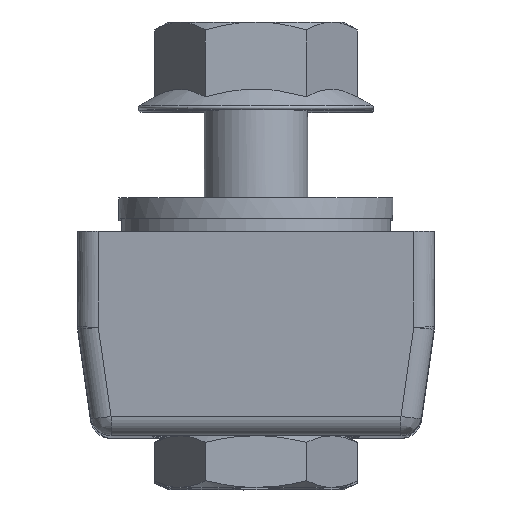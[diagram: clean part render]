
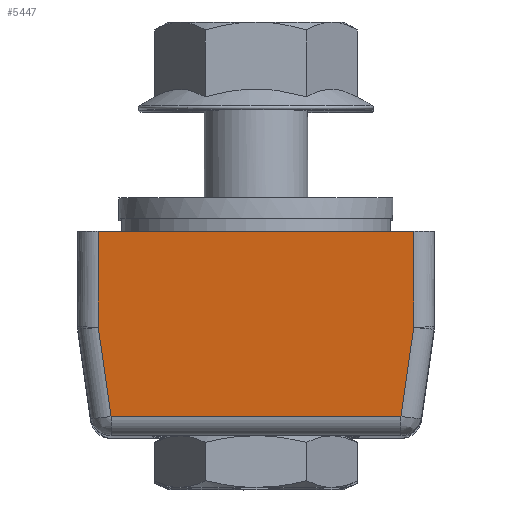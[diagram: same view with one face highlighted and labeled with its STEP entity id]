
A CAD part, top view. The second image highlights one B-rep face of the part: STEP entity #5447.
In plain terms, the highlighted free-form (B-spline) face has degree [1, 1] with [2, 2] control points.
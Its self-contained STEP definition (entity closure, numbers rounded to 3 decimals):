
#5303=CARTESIAN_POINT('V128',(-14.018,
   -17.651,152.64));
#5304=VERTEX_POINT('V128',#5303);
#5318=CARTESIAN_POINT('V123',(-15.25,-9.027,
   153.295));
#5319=VERTEX_POINT('V123',#5318);
#5320=CARTESIAN_POINT('E200',(-14.018,
   -17.651,152.64));
#5321=CARTESIAN_POINT('E200',(-15.25,-9.027,
   153.295));
#5322=B_SPLINE_CURVE_WITH_KNOTS('E200',1,(#5320,#5321),
   .POLYLINE_FORM.,.F.,.U.,(2,2),(2.0,4.8),
   .UNSPECIFIED.);
#5323=EDGE_CURVE('E200',#5304,#5319,#5322,.T.);
#5392=CARTESIAN_POINT('V124',(-15.25,0.25,
   154.0));
#5393=VERTEX_POINT('V124',#5392);
#5394=CARTESIAN_POINT('E195',(-15.25,-9.027,
   153.295));
#5395=CARTESIAN_POINT('E195',(-15.25,0.25,
   154.0));
#5396=B_SPLINE_CURVE_WITH_KNOTS('E195',1,(#5394,#5395),
   .POLYLINE_FORM.,.F.,.U.,(2,2),(2.0,4.961),
   .UNSPECIFIED.);
#5397=EDGE_CURVE('E195',#5319,#5393,#5396,.T.);
#5412=CARTESIAN_POINT('F80',(30.0,5.25,
   154.38));
#5413=CARTESIAN_POINT('F80',(30.0,-24.5,
   152.12));
#5414=CARTESIAN_POINT('F80',(-30.0,5.25,
   154.38));
#5415=CARTESIAN_POINT('F80',(-30.0,-24.5,
   152.12));
#5416=B_SPLINE_SURFACE_WITH_KNOTS('F80',1,1,((#5412,#5414),(#5413,
   #5415)),.PLANE_SURF.,.F.,.F.,.U.,(2,2),(2,2),(0.0,1.0),(0.0,
   2.011),.UNSPECIFIED.);
#5417=ORIENTED_EDGE('E200',*,*,#5323,.F.);
#5418=CARTESIAN_POINT('V127',(14.018,-17.651,
   152.64));
#5419=VERTEX_POINT('V127',#5418);
#5420=CARTESIAN_POINT('E199',(14.018,-17.651,
   152.64));
#5421=CARTESIAN_POINT('E199',(-14.018,
   -17.651,152.64));
#5422=B_SPLINE_CURVE_WITH_KNOTS('E199',1,(#5420,#5421),
   .POLYLINE_FORM.,.F.,.U.,(2,2),(2.0,11.377),
   .UNSPECIFIED.);
#5423=EDGE_CURVE('E199',#5419,#5304,#5422,.T.);
#5424=ORIENTED_EDGE('E199',*,*,#5423,.F.);
#5425=CARTESIAN_POINT('V126',(15.25,-9.027,
   153.295));
#5426=VERTEX_POINT('V126',#5425);
#5427=CARTESIAN_POINT('E198',(15.25,-9.027,
   153.295));
#5428=CARTESIAN_POINT('E198',(14.018,-17.651,
   152.64));
#5429=B_SPLINE_CURVE_WITH_KNOTS('E198',1,(#5427,#5428),
   .POLYLINE_FORM.,.F.,.U.,(2,2),(2.0,4.8),
   .UNSPECIFIED.);
#5430=EDGE_CURVE('E198',#5426,#5419,#5429,.T.);
#5431=ORIENTED_EDGE('E198',*,*,#5430,.F.);
#5432=CARTESIAN_POINT('V125',(15.25,0.25,
   154.0));
#5433=VERTEX_POINT('V125',#5432);
#5434=CARTESIAN_POINT('E197',(15.25,0.25,
   154.0));
#5435=CARTESIAN_POINT('E197',(15.25,-9.027,
   153.295));
#5436=B_SPLINE_CURVE_WITH_KNOTS('E197',1,(#5434,#5435),
   .POLYLINE_FORM.,.F.,.U.,(2,2),(2.0,4.961),
   .UNSPECIFIED.);
#5437=EDGE_CURVE('E197',#5433,#5426,#5436,.T.);
#5438=ORIENTED_EDGE('E197',*,*,#5437,.F.);
#5439=CARTESIAN_POINT('E196',(-15.25,0.25,
   154.0));
#5440=CARTESIAN_POINT('E196',(15.25,0.25,
   154.0));
#5441=B_SPLINE_CURVE_WITH_KNOTS('E196',1,(#5439,#5440),
   .POLYLINE_FORM.,.F.,.U.,(2,2),(0.4,
   6.5),.UNSPECIFIED.);
#5442=EDGE_CURVE('E196',#5393,#5433,#5441,.T.);
#5443=ORIENTED_EDGE('E196',*,*,#5442,.F.);
#5444=ORIENTED_EDGE('E195',*,*,#5397,.F.);
#5445=EDGE_LOOP('F80',(#5417,#5424,#5431,#5438,#5443,#5444));
#5446=FACE_OUTER_BOUND('F80',#5445,.T.);
#5447=ADVANCED_FACE('F80',(#5446),#5416,.F.);
